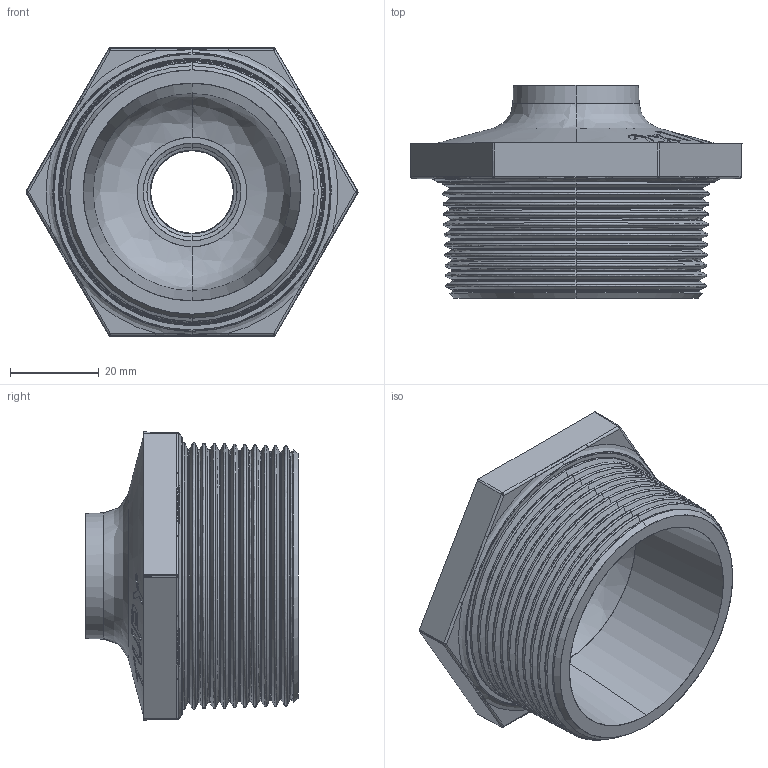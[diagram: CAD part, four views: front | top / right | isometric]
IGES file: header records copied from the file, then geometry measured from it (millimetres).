
Start section: SolidWorks IGES file using analytic representation for surfaces
Global section: file name: C:\Users\Joel Rosa\Desktop\Tubulação\12-01-OK\12-01-043.IGS; native system: SolidWorks 2011; preprocessor: SolidWorks 2011; author: Joel Rosa; date: 121203.201615; units: millimetre
Bounding box: 74.9 x 48 x 65 mm (x, y, z)
Surface area: 22190.3 mm2 (no closed solid volume)
Topology: 0 solids, 0 shells, 384 faces, 3692 edges, 3692 vertices
Faces by surface type: bspline 256, revolution 128
